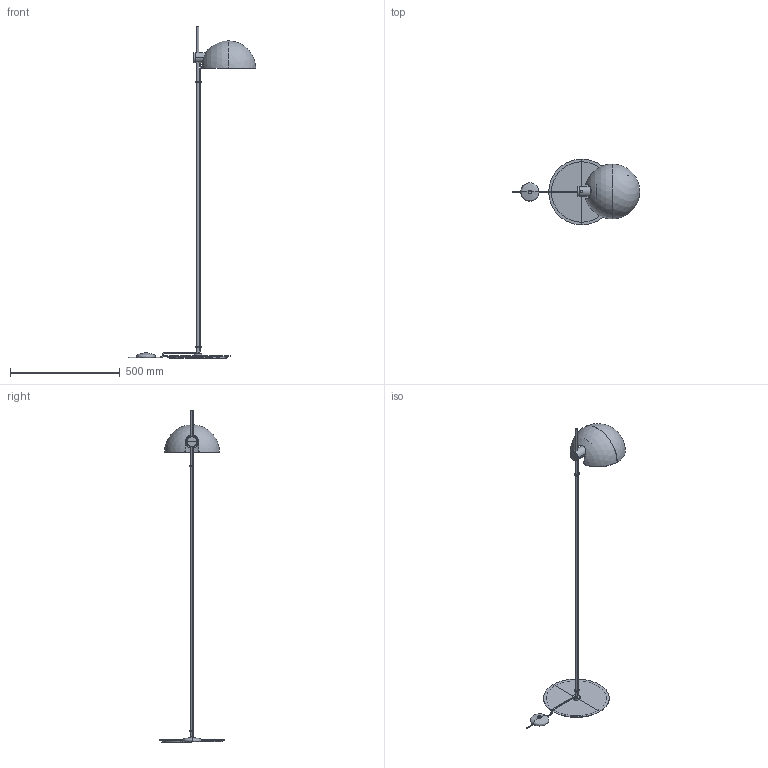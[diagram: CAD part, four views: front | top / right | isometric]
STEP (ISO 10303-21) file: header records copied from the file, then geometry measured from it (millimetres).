
FILE_DESCRIPTION(/* description */ (''),/* implementation_level */ '2;1');
FILE_NAME(/* name */ '20034-122.step',/* time_stamp */ '2024-06-12T15:15:26+02:00',/* author */ ('RenataManzini'),/* organization */ (''),/* preprocessor_version */ 'ST-DEVELOPER v20',/* originating_system */ 'AutoCAD Mechanical',/* authorisation */ '');
FILE_SCHEMA (('AUTOMOTIVE_DESIGN { 1 0 10303 214 3 1 1 }'));
Length unit declared in the file: millimetre
Products named in the file (2): Product; dominica_pie - STUDIO-638674-_3D_
Assembly tree (1 placements, depth 2):
  Product
    dominica_pie - STUDIO-638674-_3D_
Bounding box: 579.56 x 300 x 1511 mm (x, y, z)
Volume: 1189554.5 mm3; surface area: 454537.9 mm2
Topology: 6 solids, 6 shells, 129 faces, 302 edges, 185 vertices
Faces by surface type: plane 60, cylinder 53, torus 10, sphere 4, bspline 2
Entity records: 5345 total; most frequent: CARTESIAN_POINT 2427, DIRECTION 599, ORIENTED_EDGE 594, EDGE_CURVE 297, AXIS2_PLACEMENT_3D 233, VERTEX_POINT 180, LINE 133, VECTOR 133
